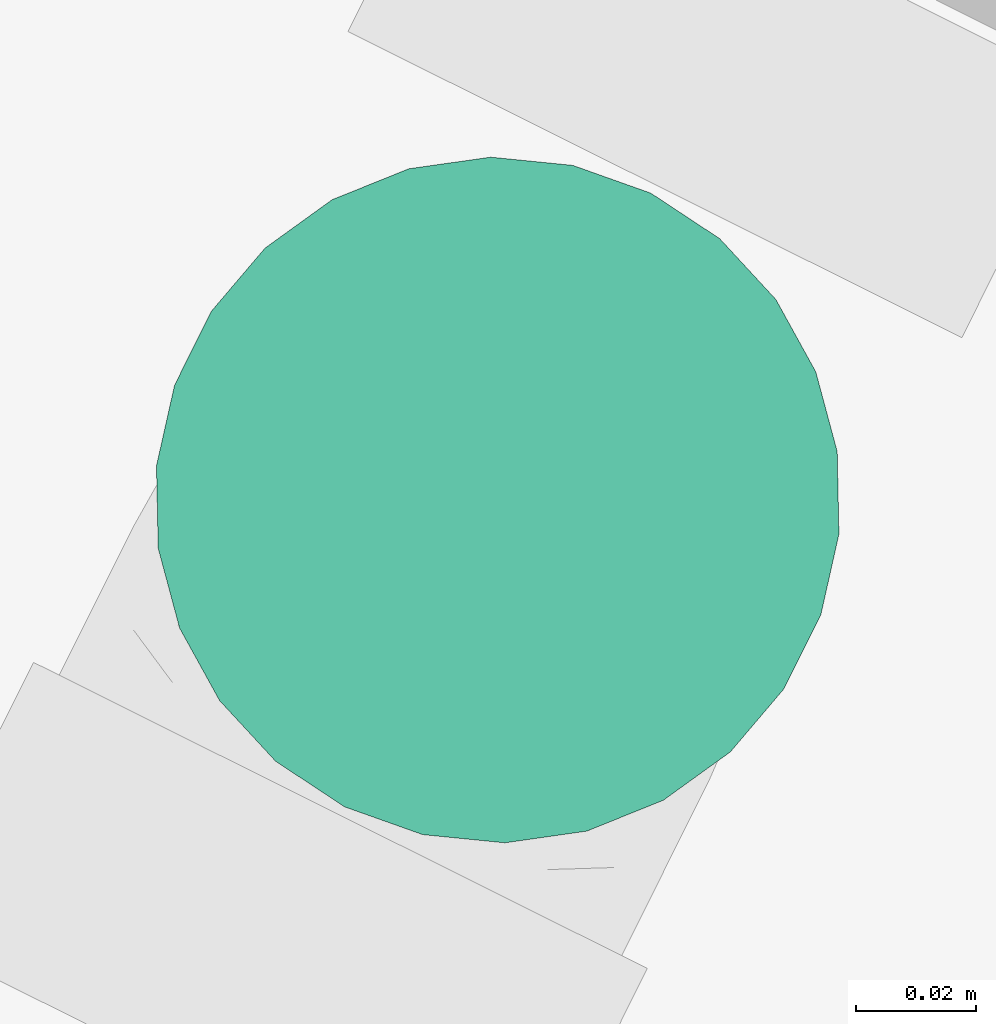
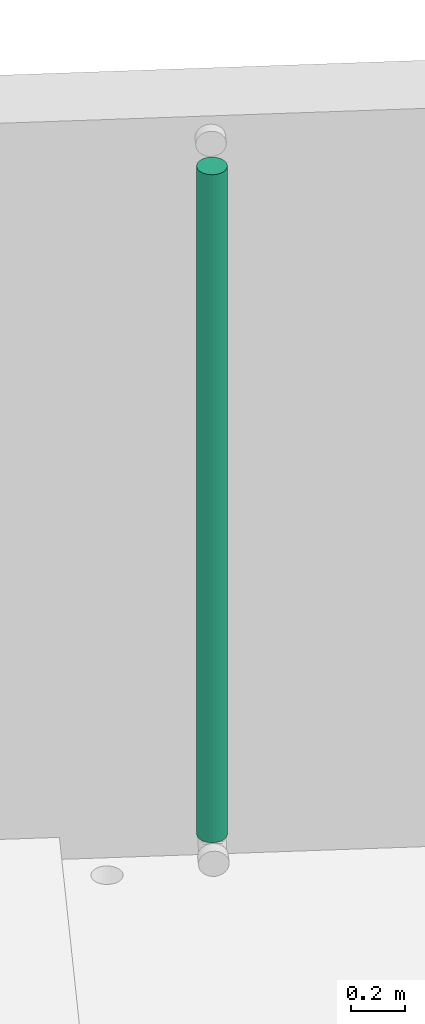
# One storey, part 13 of 34: 1 flow segment.
"""IFC2X3 building model written with IfcOpenShell, lengths in metres."""

from ifc_helpers import new_model, entity, si_unit, converted_unit, derived_unit, direction, frame, origin, origin_2d_with_axis, place, context, subcontext, project, spatial, circle, extrude, type_object, element, save


model = new_model("IFC2X3")

# Units and contexts
model_context = context("Model", 3, precision=1e-05, world=origin(), true_north=direction((0.894925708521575, 0.446215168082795)))
context_of_model = context(None, 3, precision=1e-05, world=origin(), true_north=direction((0.894925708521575, 0.446215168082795)))
body_context = subcontext(model_context, "Body", "Model", "MODEL_VIEW")
ifc_project = project(units=[si_unit("LENGTHUNIT", "METRE"), si_unit("AREAUNIT", "SQUARE_METRE"), si_unit("VOLUMEUNIT", "CUBIC_METRE"), converted_unit("PLANEANGLEUNIT", "DEGREE", entity("IfcRatioMeasure", 0.0174532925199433), si_unit("PLANEANGLEUNIT", "RADIAN"), dimensions=[0, 0, 0, 0, 0, 0, 0]), si_unit("MASSUNIT", "GRAM", prefix="KILO"), si_unit("TIMEUNIT", "SECOND"), si_unit("FREQUENCYUNIT", "HERTZ"), si_unit("THERMODYNAMICTEMPERATUREUNIT", "DEGREE_CELSIUS"), derived_unit("THERMALTRANSMITTANCEUNIT", [(si_unit("MASSUNIT", "GRAM", prefix="KILO"), 1), (si_unit("THERMODYNAMICTEMPERATUREUNIT", "KELVIN"), -1), (si_unit("TIMEUNIT", "SECOND"), -3)]), derived_unit("VOLUMETRICFLOWRATEUNIT", [(si_unit("LENGTHUNIT", "METRE"), 3), (si_unit("TIMEUNIT", "SECOND"), -1)]), si_unit("ELECTRICCURRENTUNIT", "AMPERE"), si_unit("ELECTRICVOLTAGEUNIT", "VOLT"), si_unit("POWERUNIT", "WATT"), si_unit("FORCEUNIT", "NEWTON", prefix="KILO"), si_unit("ILLUMINANCEUNIT", "LUX"), si_unit("LUMINOUSFLUXUNIT", "LUMEN"), si_unit("LUMINOUSINTENSITYUNIT", "CANDELA"), si_unit("PRESSUREUNIT", "PASCAL")], contexts=[model_context, context_of_model])

# Site, building, storey
site_placement = place(None, frame((218.228324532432, 584.720189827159, 0.0), z_axis=(0.0, 0.0, 1.0), x_axis=(0.446215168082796, 0.894925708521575, 0.0)))
site = spatial("IfcSite", under=ifc_project, at=site_placement, Name="Default", CompositionType="ELEMENT")
building_placement = place(site_placement, origin())
building = spatial("IfcBuilding", under=site, at=building_placement, CompositionType="ELEMENT")
storey_placement = place(building_placement, frame((0.0, 0.0, 8.61)))
storey = spatial("IfcBuildingStorey", under=building, at=storey_placement, Name="2 - Piano Secondo", CompositionType="ELEMENT", Elevation=8.61)

# Flow segment
pipe_segment_type = type_object("IfcPipeSegmentType", Name="Tubazione:Pluviale-Tubazione Inox", PredefinedType="NOTDEFINED")
flow_segment_placement = place(storey_placement, frame((50.8400417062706, 4.85017573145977, 0.165887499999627)))
element("IfcFlowSegment", 1, at=flow_segment_placement, inside=storey, type_object=pipe_segment_type, Name="Tubazione:Pluviale-Tubazione Inox", ObjectType="Tubazione:Pluviale-Tubazione Inox", context=body_context, shape_type="SweptSolid", body=[
    extrude(circle(Radius=0.05715, at=origin_2d_with_axis()), frame((0.0587452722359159, 0.0587452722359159, 0.0)), (0.0, 0.0, 1.0), 3.02252500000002),
])

save(model, "model.ifc")
